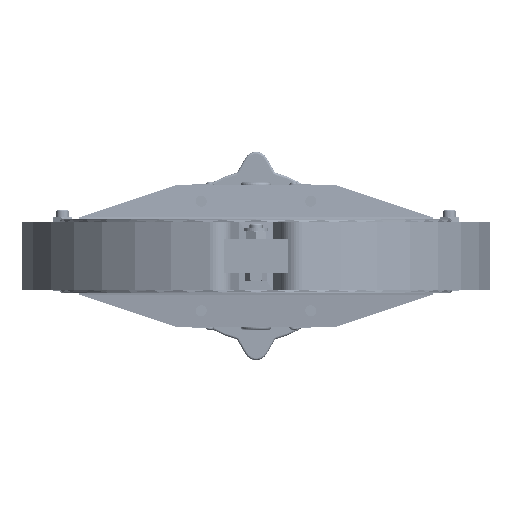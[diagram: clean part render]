
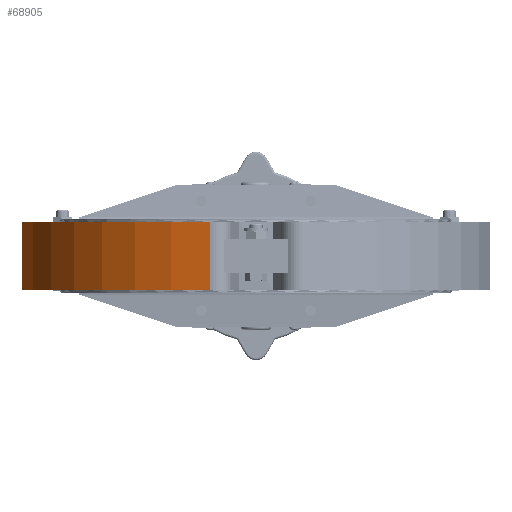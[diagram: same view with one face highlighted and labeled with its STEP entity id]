
A CAD part, front view. The second image highlights one B-rep face of the part: STEP entity #68905.
In plain terms, the highlighted cylindrical face has radius 293 mm (diameter 586 mm), a partial arc.
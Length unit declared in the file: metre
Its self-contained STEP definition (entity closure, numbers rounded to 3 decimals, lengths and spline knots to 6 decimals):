
#8098=FACE_OUTER_BOUND('',#12465,.T.);
#12465=EDGE_LOOP('',(#53996,#53997,#53998,#53999));
#17051=CIRCLE('',#74796,0.293);
#17067=CIRCLE('',#74813,0.293);
#20976=LINE('',#122302,#25222);
#20992=LINE('',#122414,#25238);
#25222=VECTOR('',#88373,0.083);
#25238=VECTOR('',#88489,0.083);
#30676=VERTEX_POINT('',#122299);
#30677=VERTEX_POINT('',#122301);
#30707=VERTEX_POINT('',#122379);
#30723=VERTEX_POINT('',#122413);
#39175=EDGE_CURVE('',#30676,#30677,#20976,.T.);
#39214=EDGE_CURVE('',#30677,#30707,#17051,.T.);
#39231=EDGE_CURVE('',#30723,#30707,#20992,.T.);
#39232=EDGE_CURVE('',#30676,#30723,#17067,.T.);
#53996=ORIENTED_EDGE('',*,*,#39231,.T.);
#53997=ORIENTED_EDGE('',*,*,#39214,.F.);
#53998=ORIENTED_EDGE('',*,*,#39175,.F.);
#53999=ORIENTED_EDGE('',*,*,#39232,.T.);
#66430=CYLINDRICAL_SURFACE('',#74812,0.293);
#68905=ADVANCED_FACE('',(#8098),#66430,.T.);
#74796=AXIS2_PLACEMENT_3D('',#122380,#88454,#88455);
#74812=AXIS2_PLACEMENT_3D('',#122412,#88487,#88488);
#74813=AXIS2_PLACEMENT_3D('',#122415,#88490,#88491);
#88373=DIRECTION('',(0.,0.,-1.));
#88454=DIRECTION('center_axis',(0.,0.,
-1.));
#88455=DIRECTION('ref_axis',(1.,0.,0.));
#88487=DIRECTION('center_axis',(0.,0.,
1.));
#88488=DIRECTION('ref_axis',(-1.,0.,0.));
#88489=DIRECTION('',(0.,0.,-1.));
#88490=DIRECTION('center_axis',(0.,0.,
-1.));
#88491=DIRECTION('ref_axis',(1.,0.,0.));
#122299=CARTESIAN_POINT('',(-0.057161,-0.28737,0.0415));
#122301=CARTESIAN_POINT('',(-0.057161,-0.28737,-0.0415));
#122302=CARTESIAN_POINT('',(-0.057161,-0.28737,0.0415));
#122379=CARTESIAN_POINT('',(-0.28737,-0.057161,-0.0415));
#122380=CARTESIAN_POINT('Origin',(0.,0.,
-0.0415));
#122412=CARTESIAN_POINT('Origin',(0.,0.,
-0.0415));
#122413=CARTESIAN_POINT('',(-0.28737,-0.057161,0.0415));
#122414=CARTESIAN_POINT('',(-0.28737,-0.057161,0.0415));
#122415=CARTESIAN_POINT('Origin',(0.,0.,
0.0415));
